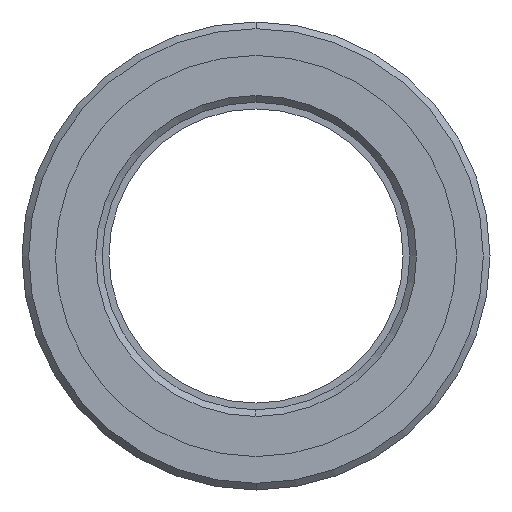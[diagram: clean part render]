
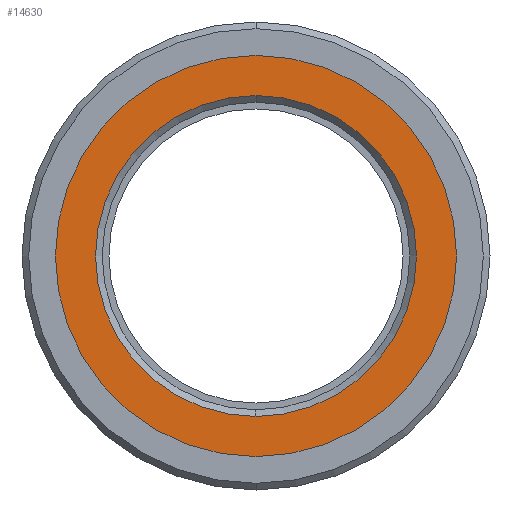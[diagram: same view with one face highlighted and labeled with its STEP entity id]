
A CAD part, left-side view. The second image highlights one B-rep face of the part: STEP entity #14630.
In plain terms, the highlighted planar face has unit normal (-1, 0, 0).
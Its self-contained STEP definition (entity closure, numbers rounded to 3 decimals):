
#5814=CARTESIAN_POINT('',(-8.,0.,0.));
#5815=DIRECTION('',(1.,0.,0.));
#5816=DIRECTION('',(0.,0.,1.));
#5817=AXIS2_PLACEMENT_3D('',#5814,#5815,#5816);
#5819=CARTESIAN_POINT('',(-8.,0.,
0.));
#5820=DIRECTION('',(1.,0.,0.));
#5821=DIRECTION('',(0.,0.,-1.));
#5822=AXIS2_PLACEMENT_3D('',#5819,#5820,#5821);
#5828=CARTESIAN_POINT('',(-8.,0.,0.));
#5829=DIRECTION('',(-1.,0.,0.));
#5830=DIRECTION('',(0.,0.,1.));
#5831=AXIS2_PLACEMENT_3D('',#5828,#5829,#5830);
#5837=CARTESIAN_POINT('',(-8.,0.,0.));
#5838=DIRECTION('',(1.,0.,0.));
#5839=DIRECTION('',(0.,0.,1.));
#5840=AXIS2_PLACEMENT_3D('',#5837,#5838,#5839);
#12342=CARTESIAN_POINT('',(-8.,0.,15.));
#12344=VERTEX_POINT('',#12342);
#12346=CARTESIAN_POINT('',(-8.,0.,-15.));
#12348=VERTEX_POINT('',#12346);
#12350=CARTESIAN_POINT('',(-8.,0.,12.));
#12351=CARTESIAN_POINT('',(-8.,0.,-12.));
#12352=VERTEX_POINT('',#12350);
#12353=VERTEX_POINT('',#12351);
#14614=CARTESIAN_POINT('',(-8.,0.,0.));
#14615=DIRECTION('',(1.,0.,0.));
#14616=DIRECTION('',(0.,0.,1.));
#14617=AXIS2_PLACEMENT_3D('',#14614,#14615,#14616);
#14618=PLANE('',#14617);
#14620=ORIENTED_EDGE('',*,*,#14619,.F.);
#14622=ORIENTED_EDGE('',*,*,#14621,.T.);
#14623=EDGE_LOOP('',(#14620,#14622));
#14624=FACE_OUTER_BOUND('',#14623,.F.);
#14625=ORIENTED_EDGE('',*,*,#14604,.F.);
#14627=ORIENTED_EDGE('',*,*,#14626,.F.);
#14628=EDGE_LOOP('',(#14625,#14627));
#14629=FACE_BOUND('',#14628,.F.);
#14630=ADVANCED_FACE('',(#14624,#14629),#14618,.F.);
#5818=CIRCLE('',#5817,12.);
#5823=CIRCLE('',#5822,12.);
#5832=CIRCLE('',#5831,15.);
#5841=CIRCLE('',#5840,15.);
#14604=EDGE_CURVE('',#12352,#12353,#5818,.T.);
#14619=EDGE_CURVE('',#12344,#12348,#5832,.T.);
#14621=EDGE_CURVE('',#12344,#12348,#5841,.T.);
#14626=EDGE_CURVE('',#12353,#12352,#5823,.T.);
